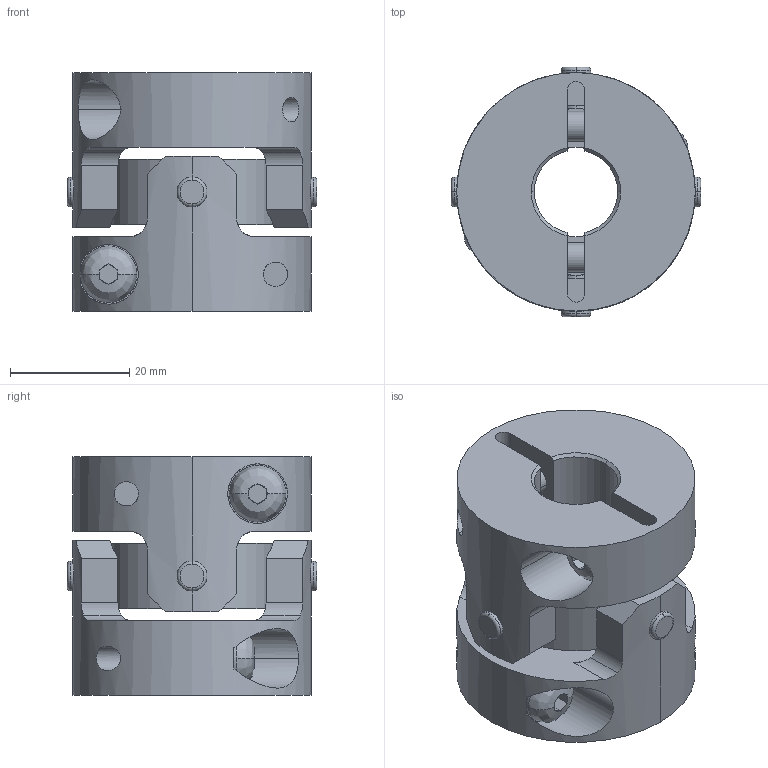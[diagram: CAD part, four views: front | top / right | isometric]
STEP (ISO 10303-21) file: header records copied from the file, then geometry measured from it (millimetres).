
FILE_DESCRIPTION((''),'2;1');
FILE_NAME('UA-40C-14×20.stp','2013-05-22T08:58:15',(''),(''),'AutoCAD STEP 2000i','AutoCAD 2000i',', , ');
FILE_SCHEMA(('CONFIG_CONTROL_DESIGN'));
Length unit declared in the file: millimetre
Products named in the file (7): UA-40C-8×18; 忣兜1; UA-4002-D18; BTN-M5; UA-4002-D08-1; UA-4002-D08; UA40-SEN
Assembly tree (8 placements, depth 3):
  UA-40C-8×18
    忣兜1
    UA-4002-D18
      BTN-M5
    UA-4002-D08-1
      BTN-M5
    UA-4002-D08
      BTN-M5
    UA40-SEN
Bounding box: 41.81 x 41.81 x 40 mm (x, y, z)
Volume: 31715.8 mm3; surface area: 15043.7 mm2
Topology: 1 solids, 1 shells, 252 faces, 654 edges, 412 vertices
Faces by surface type: plane 124, cylinder 96, cone 16, bspline 8, torus 8
Entity records: 9705 total; most frequent: CARTESIAN_POINT 3363, DIRECTION 1308, ORIENTED_EDGE 1308, EDGE_CURVE 654, AXIS2_PLACEMENT_3D 505, VERTEX_POINT 412, VECTOR 298, LINE 298
